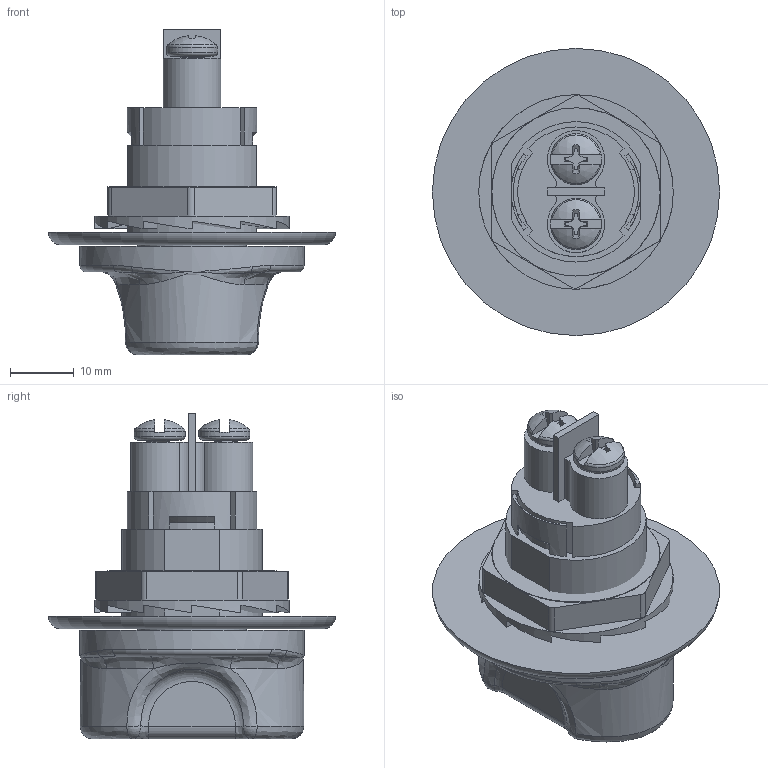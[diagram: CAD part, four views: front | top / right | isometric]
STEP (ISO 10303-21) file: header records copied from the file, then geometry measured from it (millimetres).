
FILE_DESCRIPTION(/* description */ (''),/* implementation_level */ '2;1');
FILE_NAME(/* name */ 'Assembly1.stp',/* time_stamp */ '2024-01-08T09:39:21-08:00',/* author */ ('RaniahC'),/* organization */ (''),/* preprocessor_version */ 'ST-DEVELOPER v19.2',/* originating_system */ 'Autodesk Inventor 2024',/* authorisation */ '');
FILE_SCHEMA (('AUTOMOTIVE_DESIGN { 1 0 10303 214 3 1 1 }'));
Length unit declared in the file: inch
Products named in the file (8): Assembly1; Base Threads; Circle Base; Screw Base; Cut out circle; Flange Hex Nut; 90604A735_Pan Head Combination Phillips Slotted Screws; Button
Assembly tree (8 placements, depth 2):
  Assembly1
    Base Threads
    Circle Base
    Screw Base
    Cut out circle
    Flange Hex Nut
    90604A735_Pan Head Combination Phillips Slotted Screws  x2
    Button
Bounding box: 45 x 45 x 51.05 mm (x, y, z)
Volume: 24939 mm3; surface area: 13516.4 mm2
Topology: 8 solids, 8 shells, 273 faces, 719 edges, 462 vertices
Faces by surface type: plane 146, cylinder 62, bspline 34, cone 12, torus 11, sphere 8
Full cylindrical faces by diameter (mm): 4 x20, 5 x2, 8 x2, 17 x2, 20.3 x1, 26.37 x1, 30.5 x1, 35.1 x1
Entity records: 10077 total; most frequent: CARTESIAN_POINT 4514, ORIENTED_EDGE 1134, DIRECTION 1077, EDGE_CURVE 567, AXIS2_PLACEMENT_3D 402, VERTEX_POINT 364, LINE 273, VECTOR 273
